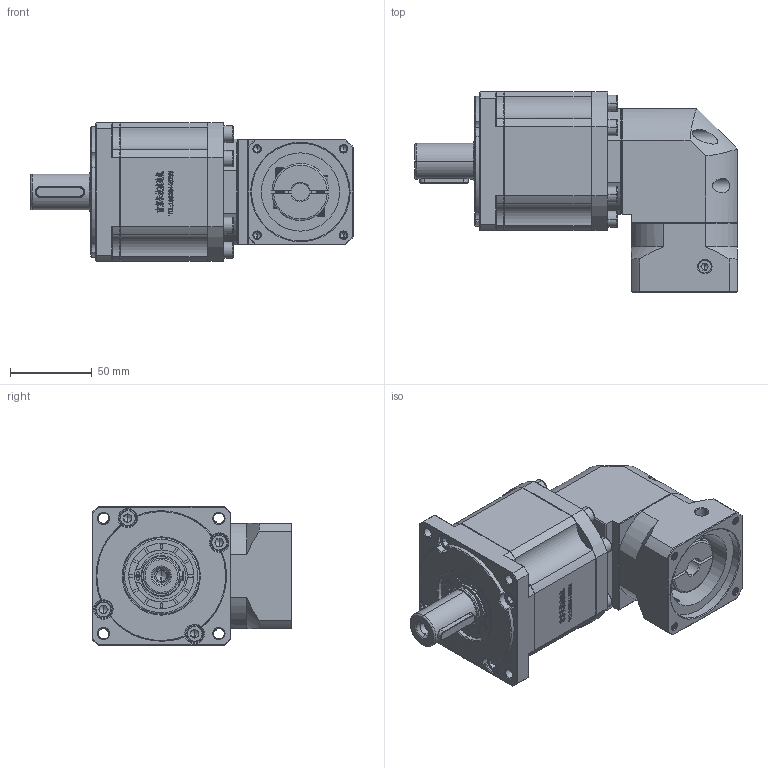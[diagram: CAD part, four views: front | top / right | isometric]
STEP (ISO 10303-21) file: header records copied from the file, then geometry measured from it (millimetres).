
FILE_DESCRIPTION (( 'STEP AP214' ), '1' );
FILE_NAME ('ZBR90-D22-L3-11-60-75-M5.step', '2022-05-07T15:21:42', ( '' ), ( 'Microsoft' ), 'SwSTEP 2.0', 'SolidWorks 2016', '' );
FILE_SCHEMA (( 'AUTOMOTIVE_DESIGN' ));
Length unit declared in the file: millimetre
Products named in the file (1): ZBR90-D22-L3-11-60-75-M5
Bounding box: 198 x 122.7 x 85 mm (x, y, z)
Volume: 938598.6 mm3; surface area: 106970.2 mm2
Topology: 5 solids, 5 shells, 3039 faces, 8134 edges, 5239 vertices
Faces by surface type: plane 1598, bspline 620, cylinder 445, cone 368, torus 8
Entity records: 163701 total; most frequent: CARTESIAN_POINT 59064, ORIENTED_EDGE 16176, DIRECTION 12423, EDGE_CURVE 8088, VECTOR 5349, LINE 5349, VERTEX_POINT 5239, AXIS2_PLACEMENT_3D 3537
